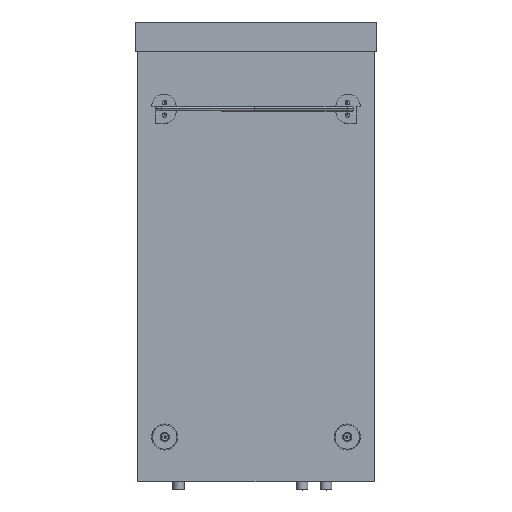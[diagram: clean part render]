
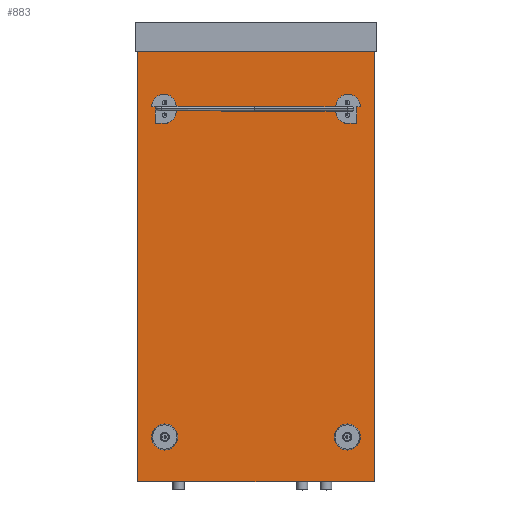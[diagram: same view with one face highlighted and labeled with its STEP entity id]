
A CAD part, top view. The second image highlights one B-rep face of the part: STEP entity #883.
In plain terms, the highlighted planar face has unit normal (0, 0, 1).
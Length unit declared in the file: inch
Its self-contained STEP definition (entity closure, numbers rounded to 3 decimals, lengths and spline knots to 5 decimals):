
#207=DIRECTION('',(1.,0.,0.));
#208=VECTOR('',#207,7.96);
#209=CARTESIAN_POINT('',(-3.98,0.,1.62));
#210=LINE('',#209,#208);
#235=DIRECTION('',(0.,1.,0.));
#236=VECTOR('',#235,14.44);
#237=CARTESIAN_POINT('',(3.98,0.,1.62));
#238=LINE('',#237,#236);
#239=DIRECTION('',(0.,1.,0.));
#240=VECTOR('',#239,14.44);
#241=CARTESIAN_POINT('',(-3.98,0.,1.62));
#242=LINE('',#241,#240);
#255=DIRECTION('',(1.,0.,0.));
#256=VECTOR('',#255,7.96);
#257=CARTESIAN_POINT('',(-3.98,14.44,1.62));
#258=LINE('',#257,#256);
#311=CARTESIAN_POINT('',(3.0675,12.7325,1.62));
#312=DIRECTION('',(0.,0.,1.));
#313=DIRECTION('',(1.,0.,0.));
#314=AXIS2_PLACEMENT_3D('',#311,#312,#313);
#320=CARTESIAN_POINT('',(3.0675,12.7325,1.62));
#321=DIRECTION('',(0.,0.,1.));
#322=DIRECTION('',(-1.,0.,0.));
#323=AXIS2_PLACEMENT_3D('',#320,#321,#322);
#389=CARTESIAN_POINT('',(3.0675,12.3075,1.62));
#390=DIRECTION('',(0.,0.,1.));
#391=DIRECTION('',(1.,0.,0.));
#392=AXIS2_PLACEMENT_3D('',#389,#390,#391);
#398=CARTESIAN_POINT('',(3.0675,12.3075,1.62));
#399=DIRECTION('',(0.,0.,1.));
#400=DIRECTION('',(-1.,0.,0.));
#401=AXIS2_PLACEMENT_3D('',#398,#399,#400);
#407=CARTESIAN_POINT('',(-3.067,12.3075,1.62));
#408=DIRECTION('',(0.,0.,1.));
#409=DIRECTION('',(1.,0.,0.));
#410=AXIS2_PLACEMENT_3D('',#407,#408,#409);
#416=CARTESIAN_POINT('',(-3.067,12.3075,1.62));
#417=DIRECTION('',(0.,0.,1.));
#418=DIRECTION('',(-1.,0.,0.));
#419=AXIS2_PLACEMENT_3D('',#416,#417,#418);
#425=CARTESIAN_POINT('',(-3.067,12.7325,1.62));
#426=DIRECTION('',(0.,0.,1.));
#427=DIRECTION('',(1.,0.,0.));
#428=AXIS2_PLACEMENT_3D('',#425,#426,#427);
#434=CARTESIAN_POINT('',(-3.067,12.7325,1.62));
#435=DIRECTION('',(0.,0.,1.));
#436=DIRECTION('',(-1.,0.,0.));
#437=AXIS2_PLACEMENT_3D('',#434,#435,#436);
#443=CARTESIAN_POINT('',(3.0675,1.5,1.62));
#444=DIRECTION('',(0.,0.,1.));
#445=DIRECTION('',(1.,0.,0.));
#446=AXIS2_PLACEMENT_3D('',#443,#444,#445);
#452=CARTESIAN_POINT('',(3.0675,1.5,1.62));
#453=DIRECTION('',(0.,0.,1.));
#454=DIRECTION('',(-1.,0.,0.));
#455=AXIS2_PLACEMENT_3D('',#452,#453,#454);
#461=CARTESIAN_POINT('',(-3.067,1.5,1.62));
#462=DIRECTION('',(0.,0.,1.));
#463=DIRECTION('',(1.,0.,0.));
#464=AXIS2_PLACEMENT_3D('',#461,#462,#463);
#470=CARTESIAN_POINT('',(-3.067,1.5,1.62));
#471=DIRECTION('',(0.,0.,1.));
#472=DIRECTION('',(-1.,0.,0.));
#473=AXIS2_PLACEMENT_3D('',#470,#471,#472);
#679=CARTESIAN_POINT('',(-3.98,14.44,1.62));
#680=VERTEX_POINT('',#679);
#681=CARTESIAN_POINT('',(3.98,14.44,1.62));
#682=VERTEX_POINT('',#681);
#687=CARTESIAN_POINT('',(-3.98,0.,1.62));
#688=VERTEX_POINT('',#687);
#689=CARTESIAN_POINT('',(3.98,0.,1.62));
#690=VERTEX_POINT('',#689);
#699=CARTESIAN_POINT('',(3.12,12.7325,1.62));
#700=CARTESIAN_POINT('',(3.015,12.7325,1.62));
#701=VERTEX_POINT('',#699);
#702=VERTEX_POINT('',#700);
#703=CARTESIAN_POINT('',(3.12,12.3075,1.62));
#704=CARTESIAN_POINT('',(3.015,12.3075,1.62));
#705=VERTEX_POINT('',#703);
#706=VERTEX_POINT('',#704);
#707=CARTESIAN_POINT('',(-3.0145,12.3075,1.62));
#708=CARTESIAN_POINT('',(-3.1195,12.3075,1.62));
#709=VERTEX_POINT('',#707);
#710=VERTEX_POINT('',#708);
#711=CARTESIAN_POINT('',(-3.0145,12.7325,1.62));
#712=CARTESIAN_POINT('',(-3.1195,12.7325,1.62));
#713=VERTEX_POINT('',#711);
#714=VERTEX_POINT('',#712);
#715=CARTESIAN_POINT('',(3.12,1.5,1.62));
#716=CARTESIAN_POINT('',(3.015,1.5,1.62));
#717=VERTEX_POINT('',#715);
#718=VERTEX_POINT('',#716);
#719=CARTESIAN_POINT('',(-3.0145,1.5,1.62));
#720=CARTESIAN_POINT('',(-3.1195,1.5,1.62));
#721=VERTEX_POINT('',#719);
#722=VERTEX_POINT('',#720);
#834=CARTESIAN_POINT('',(-3.98,0.,1.62));
#835=DIRECTION('',(0.,0.,-1.));
#836=DIRECTION('',(1.,0.,0.));
#837=AXIS2_PLACEMENT_3D('',#834,#835,#836);
#838=PLANE('',#837);
#839=ORIENTED_EDGE('',*,*,#788,.F.);
#841=ORIENTED_EDGE('',*,*,#840,.T.);
#843=ORIENTED_EDGE('',*,*,#842,.T.);
#844=ORIENTED_EDGE('',*,*,#826,.F.);
#845=EDGE_LOOP('',(#839,#841,#843,#844));
#846=FACE_OUTER_BOUND('',#845,.F.);
#848=ORIENTED_EDGE('',*,*,#847,.T.);
#850=ORIENTED_EDGE('',*,*,#849,.T.);
#851=EDGE_LOOP('',(#848,#850));
#852=FACE_BOUND('',#851,.F.);
#854=ORIENTED_EDGE('',*,*,#853,.T.);
#856=ORIENTED_EDGE('',*,*,#855,.T.);
#857=EDGE_LOOP('',(#854,#856));
#858=FACE_BOUND('',#857,.F.);
#860=ORIENTED_EDGE('',*,*,#859,.T.);
#862=ORIENTED_EDGE('',*,*,#861,.T.);
#863=EDGE_LOOP('',(#860,#862));
#864=FACE_BOUND('',#863,.F.);
#866=ORIENTED_EDGE('',*,*,#865,.T.);
#868=ORIENTED_EDGE('',*,*,#867,.T.);
#869=EDGE_LOOP('',(#866,#868));
#870=FACE_BOUND('',#869,.F.);
#872=ORIENTED_EDGE('',*,*,#871,.T.);
#874=ORIENTED_EDGE('',*,*,#873,.T.);
#875=EDGE_LOOP('',(#872,#874));
#876=FACE_BOUND('',#875,.F.);
#878=ORIENTED_EDGE('',*,*,#877,.T.);
#880=ORIENTED_EDGE('',*,*,#879,.T.);
#881=EDGE_LOOP('',(#878,#880));
#882=FACE_BOUND('',#881,.F.);
#315=CIRCLE('',#314,0.0525);
#324=CIRCLE('',#323,0.0525);
#393=CIRCLE('',#392,0.0525);
#402=CIRCLE('',#401,0.0525);
#411=CIRCLE('',#410,0.0525);
#420=CIRCLE('',#419,0.0525);
#429=CIRCLE('',#428,0.0525);
#438=CIRCLE('',#437,0.0525);
#447=CIRCLE('',#446,0.0525);
#456=CIRCLE('',#455,0.0525);
#465=CIRCLE('',#464,0.0525);
#474=CIRCLE('',#473,0.0525);
#788=EDGE_CURVE('',#688,#690,#210,.T.);
#826=EDGE_CURVE('',#690,#682,#238,.T.);
#840=EDGE_CURVE('',#688,#680,#242,.T.);
#842=EDGE_CURVE('',#680,#682,#258,.T.);
#847=EDGE_CURVE('',#701,#702,#315,.T.);
#849=EDGE_CURVE('',#702,#701,#324,.T.);
#853=EDGE_CURVE('',#705,#706,#393,.T.);
#855=EDGE_CURVE('',#706,#705,#402,.T.);
#859=EDGE_CURVE('',#709,#710,#411,.T.);
#861=EDGE_CURVE('',#710,#709,#420,.T.);
#865=EDGE_CURVE('',#713,#714,#429,.T.);
#867=EDGE_CURVE('',#714,#713,#438,.T.);
#871=EDGE_CURVE('',#717,#718,#447,.T.);
#873=EDGE_CURVE('',#718,#717,#456,.T.);
#877=EDGE_CURVE('',#721,#722,#465,.T.);
#879=EDGE_CURVE('',#722,#721,#474,.T.);
#883=ADVANCED_FACE('',(#846,#852,#858,#864,#870,#876,#882),#838,.F.);
